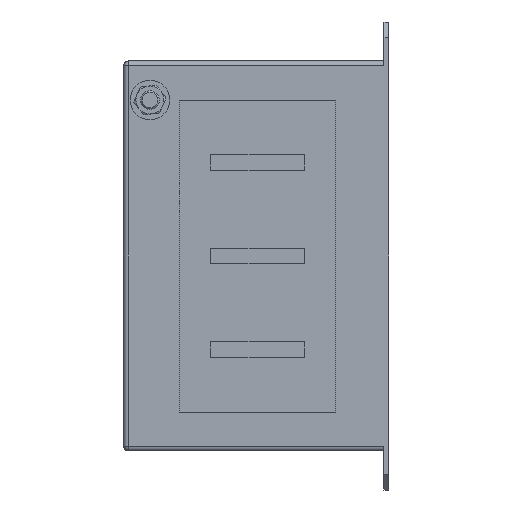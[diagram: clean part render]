
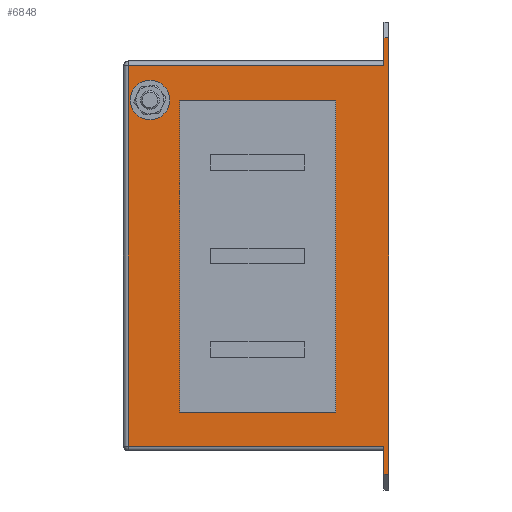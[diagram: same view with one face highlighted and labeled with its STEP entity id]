
A CAD part, left-side view. The second image highlights one B-rep face of the part: STEP entity #6848.
In plain terms, the highlighted planar face has unit normal (-1, 0, 0).
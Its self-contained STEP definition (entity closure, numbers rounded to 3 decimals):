
#80 = VERTEX_POINT ( 'NONE', #6422 ) ;
#141 = EDGE_CURVE ( 'NONE', #939, #3801, #5543, .T. ) ;
#164 = VERTEX_POINT ( 'NONE', #2019 ) ;
#226 = DIRECTION ( 'NONE',  ( 0., 0., -1. ) ) ;
#283 = VERTEX_POINT ( 'NONE', #7563 ) ;
#481 = EDGE_CURVE ( 'NONE', #164, #7372, #4285, .T. ) ;
#485 = CARTESIAN_POINT ( 'NONE',  ( 0., 3., 0. ) ) ;
#486 = LINE ( 'NONE', #6536, #7164 ) ;
#508 = VERTEX_POINT ( 'NONE', #1968 ) ;
#516 = VERTEX_POINT ( 'NONE', #3570 ) ;
#698 = VERTEX_POINT ( 'NONE', #4911 ) ;
#834 = CARTESIAN_POINT ( 'NONE',  ( 0., 3., 50. ) ) ;
#939 = VERTEX_POINT ( 'NONE', #6011 ) ;
#990 = VERTEX_POINT ( 'NONE', #7144 ) ;
#1237 = CARTESIAN_POINT ( 'NONE',  ( 0., 0., 290. ) ) ;
#1254 = ORIENTED_EDGE ( 'NONE', *, *, #2152, .T. ) ;
#1311 = ORIENTED_EDGE ( 'NONE', *, *, #4619, .T. ) ;
#1375 = CARTESIAN_POINT ( 'NONE',  ( 0., 3., 0. ) ) ;
#1422 = CARTESIAN_POINT ( 'NONE',  ( 0., 34., 0. ) ) ;
#1613 = DIRECTION ( 'NONE',  ( 0., 0., -1. ) ) ;
#1637 = ORIENTED_EDGE ( 'NONE', *, *, #4502, .T. ) ;
#1745 = VECTOR ( 'NONE', #9524, 1000. ) ;
#1786 = EDGE_CURVE ( 'NONE', #7279, #8747, #486, .T. ) ;
#1826 = FACE_BOUND ( 'NONE', #7859, .T. ) ;
#1959 = DIRECTION ( 'NONE',  ( 0., 0., -1. ) ) ;
#1967 = CARTESIAN_POINT ( 'NONE',  ( 0., 3., 10. ) ) ;
#1968 = CARTESIAN_POINT ( 'NONE',  ( 0., 34., 50. ) ) ;
#1990 = ORIENTED_EDGE ( 'NONE', *, *, #6792, .T. ) ;
#2019 = CARTESIAN_POINT ( 'NONE',  ( 0., 153., 243. ) ) ;
#2080 = CARTESIAN_POINT ( 'NONE',  ( 0., 167., 0. ) ) ;
#2108 = LINE ( 'NONE', #5318, #6701 ) ;
#2120 = ORIENTED_EDGE ( 'NONE', *, *, #7653, .T. ) ;
#2152 = EDGE_CURVE ( 'NONE', #4312, #939, #3116, .T. ) ;
#2309 = ORIENTED_EDGE ( 'NONE', *, *, #9854, .T. ) ;
#2362 = AXIS2_PLACEMENT_3D ( 'NONE', #485, #6448, #1959 ) ;
#2413 = DIRECTION ( 'NONE',  ( 0., -1., 0. ) ) ;
#2547 = DIRECTION ( 'NONE',  ( 0., 0., 1. ) ) ;
#2611 = CARTESIAN_POINT ( 'NONE',  ( 0., 167., 28. ) ) ;
#2617 = PLANE ( 'NONE',  #2362 ) ;
#2744 = EDGE_CURVE ( 'NONE', #4312, #8747, #5253, .T. ) ;
#2776 = LINE ( 'NONE', #2080, #6524 ) ;
#3012 = LINE ( 'NONE', #6689, #7858 ) ;
#3090 = ORIENTED_EDGE ( 'NONE', *, *, #1786, .T. ) ;
#3116 = LINE ( 'NONE', #7564, #5375 ) ;
#3347 = LINE ( 'NONE', #4188, #6066 ) ;
#3525 = DIRECTION ( 'NONE',  ( 0., 0., -1. ) ) ;
#3570 = CARTESIAN_POINT ( 'NONE',  ( 0., 134., 250. ) ) ;
#3645 = DIRECTION ( 'NONE',  ( 0., 0., 1. ) ) ;
#3646 = CARTESIAN_POINT ( 'NONE',  ( 0., 153., 257. ) ) ;
#3755 = ORIENTED_EDGE ( 'NONE', *, *, #6205, .T. ) ;
#3770 = DIRECTION ( 'NONE',  ( 0., -1., 0. ) ) ;
#3801 = VERTEX_POINT ( 'NONE', #1237 ) ;
#4023 = DIRECTION ( 'NONE',  ( 1., 0., 0. ) ) ;
#4044 = DIRECTION ( 'NONE',  ( 0., 0., 1. ) ) ;
#4102 = DIRECTION ( 'NONE',  ( 0., 1., 0. ) ) ;
#4188 = CARTESIAN_POINT ( 'NONE',  ( 0., 3., 0. ) ) ;
#4285 = CIRCLE ( 'NONE', #7211, 7. ) ;
#4312 = VERTEX_POINT ( 'NONE', #1967 ) ;
#4364 = DIRECTION ( 'NONE',  ( 0., 0., 1. ) ) ;
#4502 = EDGE_CURVE ( 'NONE', #8591, #516, #3012, .T. ) ;
#4593 = AXIS2_PLACEMENT_3D ( 'NONE', #4823, #4023, #1613 ) ;
#4619 = EDGE_CURVE ( 'NONE', #516, #283, #8545, .T. ) ;
#4656 = LINE ( 'NONE', #834, #7530 ) ;
#4703 = EDGE_LOOP ( 'NONE', ( #1637, #1311, #3755, #2309 ) ) ;
#4823 = CARTESIAN_POINT ( 'NONE',  ( 0., 153., 250. ) ) ;
#4911 = CARTESIAN_POINT ( 'NONE',  ( 0., 3., 290. ) ) ;
#5017 = FACE_BOUND ( 'NONE', #4703, .T. ) ;
#5169 = DIRECTION ( 'NONE',  ( 0., -1., 0. ) ) ;
#5253 = LINE ( 'NONE', #1375, #7015 ) ;
#5318 = CARTESIAN_POINT ( 'NONE',  ( 0., 3., 290. ) ) ;
#5375 = VECTOR ( 'NONE', #3770, 1000. ) ;
#5383 = ORIENTED_EDGE ( 'NONE', *, *, #2744, .F. ) ;
#5433 = VECTOR ( 'NONE', #2547, 1000. ) ;
#5543 = LINE ( 'NONE', #9425, #5433 ) ;
#5720 = FACE_OUTER_BOUND ( 'NONE', #8343, .T. ) ;
#5785 = CARTESIAN_POINT ( 'NONE',  ( 0., 153., 250. ) ) ;
#6011 = CARTESIAN_POINT ( 'NONE',  ( 0., 0., 10. ) ) ;
#6062 = CARTESIAN_POINT ( 'NONE',  ( 0., 3., 28. ) ) ;
#6066 = VECTOR ( 'NONE', #4044, 1000. ) ;
#6077 = DIRECTION ( 'NONE',  ( 0., 1., 0. ) ) ;
#6095 = EDGE_CURVE ( 'NONE', #80, #7279, #2776, .T. ) ;
#6097 = LINE ( 'NONE', #1422, #8925 ) ;
#6205 = EDGE_CURVE ( 'NONE', #283, #508, #6097, .T. ) ;
#6422 = CARTESIAN_POINT ( 'NONE',  ( 0., 167., 272. ) ) ;
#6426 = LINE ( 'NONE', #8724, #1745 ) ;
#6448 = DIRECTION ( 'NONE',  ( 1., 0., 0. ) ) ;
#6524 = VECTOR ( 'NONE', #226, 1000. ) ;
#6536 = CARTESIAN_POINT ( 'NONE',  ( 0., 3., 28. ) ) ;
#6689 = CARTESIAN_POINT ( 'NONE',  ( 0., 134., 0. ) ) ;
#6701 = VECTOR ( 'NONE', #6077, 1000. ) ;
#6792 = EDGE_CURVE ( 'NONE', #7372, #164, #9431, .T. ) ;
#6848 = ADVANCED_FACE ( 'NONE', ( #1826, #5017, #5720 ), #2617, .F. ) ;
#7015 = VECTOR ( 'NONE', #3645, 1000. ) ;
#7087 = ORIENTED_EDGE ( 'NONE', *, *, #481, .T. ) ;
#7144 = CARTESIAN_POINT ( 'NONE',  ( 0., 3., 272. ) ) ;
#7164 = VECTOR ( 'NONE', #5169, 1000. ) ;
#7211 = AXIS2_PLACEMENT_3D ( 'NONE', #5785, #7304, #3525 ) ;
#7279 = VERTEX_POINT ( 'NONE', #2611 ) ;
#7304 = DIRECTION ( 'NONE',  ( 1., 0., 0. ) ) ;
#7372 = VERTEX_POINT ( 'NONE', #3646 ) ;
#7530 = VECTOR ( 'NONE', #4102, 1000. ) ;
#7563 = CARTESIAN_POINT ( 'NONE',  ( 0., 34., 250. ) ) ;
#7564 = CARTESIAN_POINT ( 'NONE',  ( 0., 3., 10. ) ) ;
#7653 = EDGE_CURVE ( 'NONE', #990, #80, #6426, .T. ) ;
#7796 = EDGE_CURVE ( 'NONE', #990, #698, #3347, .T. ) ;
#7858 = VECTOR ( 'NONE', #4364, 1000. ) ;
#7859 = EDGE_LOOP ( 'NONE', ( #7087, #1990 ) ) ;
#8024 = VECTOR ( 'NONE', #2413, 1000. ) ;
#8333 = EDGE_CURVE ( 'NONE', #3801, #698, #2108, .T. ) ;
#8343 = EDGE_LOOP ( 'NONE', ( #3090, #5383, #1254, #9214, #8817, #9163, #2120, #9362 ) ) ;
#8408 = DIRECTION ( 'NONE',  ( 0., 0., -1. ) ) ;
#8545 = LINE ( 'NONE', #9947, #8024 ) ;
#8591 = VERTEX_POINT ( 'NONE', #8883 ) ;
#8724 = CARTESIAN_POINT ( 'NONE',  ( 0., 3., 272. ) ) ;
#8747 = VERTEX_POINT ( 'NONE', #6062 ) ;
#8817 = ORIENTED_EDGE ( 'NONE', *, *, #8333, .T. ) ;
#8883 = CARTESIAN_POINT ( 'NONE',  ( 0., 134., 50. ) ) ;
#8925 = VECTOR ( 'NONE', #8408, 1000. ) ;
#9163 = ORIENTED_EDGE ( 'NONE', *, *, #7796, .F. ) ;
#9214 = ORIENTED_EDGE ( 'NONE', *, *, #141, .T. ) ;
#9362 = ORIENTED_EDGE ( 'NONE', *, *, #6095, .T. ) ;
#9425 = CARTESIAN_POINT ( 'NONE',  ( 0., 0., 0. ) ) ;
#9431 = CIRCLE ( 'NONE', #4593, 7. ) ;
#9524 = DIRECTION ( 'NONE',  ( 0., 1., 0. ) ) ;
#9854 = EDGE_CURVE ( 'NONE', #508, #8591, #4656, .T. ) ;
#9947 = CARTESIAN_POINT ( 'NONE',  ( 0., 3., 250. ) ) ;
